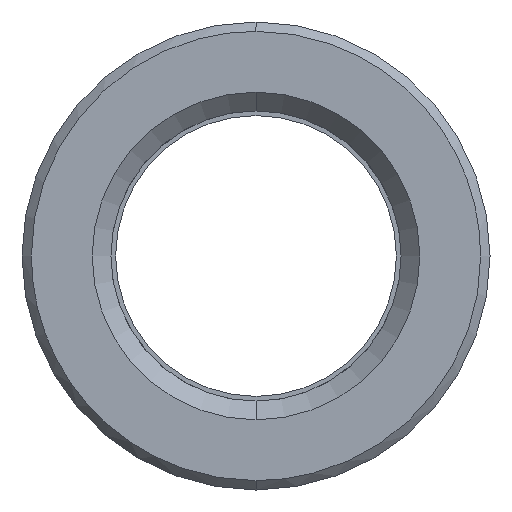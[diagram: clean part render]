
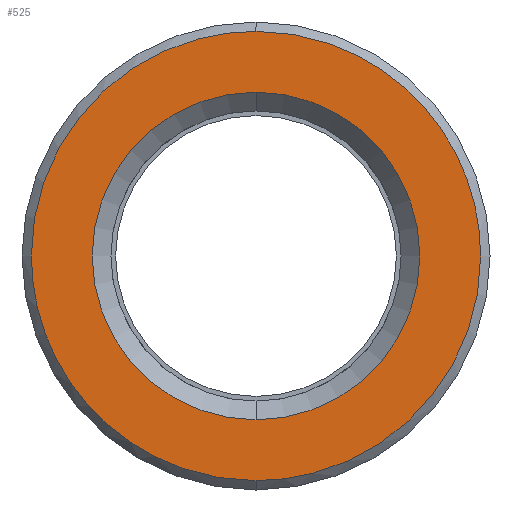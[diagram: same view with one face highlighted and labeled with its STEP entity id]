
A CAD part, left-side view. The second image highlights one B-rep face of the part: STEP entity #525.
In plain terms, the highlighted planar face has unit normal (-1, 0, 0).
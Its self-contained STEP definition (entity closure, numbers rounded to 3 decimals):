
#305=CARTESIAN_POINT('Axis2P3D Location',(0.,0.,0.)) ;
#309=CARTESIAN_POINT('Vertex',(0.,8.75,0.)) ;
#311=CARTESIAN_POINT('Vertex',(0.,0.,8.75)) ;
#314=CARTESIAN_POINT('Axis2P3D Location',(0.,0.,0.)) ;
#318=CARTESIAN_POINT('Vertex',(0.,0.,-8.75)) ;
#345=CARTESIAN_POINT('Axis2P3D Location',(0.,0.,0.)) ;
#349=CARTESIAN_POINT('Vertex',(0.,-8.75,0.)) ;
#352=CARTESIAN_POINT('Axis2P3D Location',(0.,0.,0.)) ;
#432=CARTESIAN_POINT('Axis2P3D Location',(0.,12.,0.)) ;
#438=CARTESIAN_POINT('Control Point',(0.,0.,-12.)) ;
#439=CARTESIAN_POINT('Control Point',(0.,0.982,-12.)) ;
#440=CARTESIAN_POINT('Control Point',(0.,1.964,-11.9)) ;
#441=CARTESIAN_POINT('Control Point',(0.,2.932,-11.699)) ;
#442=CARTESIAN_POINT('Control Point',(0.,5.011,-11.039)) ;
#443=CARTESIAN_POINT('Control Point',(0.,6.895,-9.93)) ;
#444=CARTESIAN_POINT('Control Point',(0.,7.845,-9.197)) ;
#445=CARTESIAN_POINT('Control Point',(0.,9.546,-7.512)) ;
#446=CARTESIAN_POINT('Control Point',(0.,10.784,-5.463)) ;
#447=CARTESIAN_POINT('Control Point',(0.,11.273,-4.367)) ;
#448=CARTESIAN_POINT('Control Point',(0.,11.741,-2.824)) ;
#449=CARTESIAN_POINT('Control Point',(0.,11.947,-1.236)) ;
#450=CARTESIAN_POINT('Control Point',(0.,11.982,-0.824)) ;
#451=CARTESIAN_POINT('Control Point',(0.,12.,-0.412)) ;
#452=CARTESIAN_POINT('Control Point',(0.,12.,0.)) ;
#453=CARTESIAN_POINT('Vertex',(0.,0.,-12.)) ;
#455=CARTESIAN_POINT('Vertex',(0.,12.,0.)) ;
#459=CARTESIAN_POINT('Control Point',(0.,-12.,0.)) ;
#460=CARTESIAN_POINT('Control Point',(0.,-12.,-1.188)) ;
#461=CARTESIAN_POINT('Control Point',(0.,-11.853,-2.376)) ;
#462=CARTESIAN_POINT('Control Point',(0.,-11.559,-3.54)) ;
#463=CARTESIAN_POINT('Control Point',(0.,-10.689,-5.77)) ;
#464=CARTESIAN_POINT('Control Point',(0.,-9.302,-7.721)) ;
#465=CARTESIAN_POINT('Control Point',(0.,-8.49,-8.605)) ;
#466=CARTESIAN_POINT('Control Point',(0.,-6.665,-10.155)) ;
#467=CARTESIAN_POINT('Control Point',(0.,-4.518,-11.213)) ;
#468=CARTESIAN_POINT('Control Point',(0.,-3.384,-11.606)) ;
#469=CARTESIAN_POINT('Control Point',(0.,-2.01,-11.897)) ;
#470=CARTESIAN_POINT('Control Point',(0.,-0.618,-11.987)) ;
#471=CARTESIAN_POINT('Control Point',(0.,-0.412,-11.996)) ;
#472=CARTESIAN_POINT('Control Point',(0.,-0.206,-12.)) ;
#473=CARTESIAN_POINT('Control Point',(0.,0.,-12.)) ;
#474=CARTESIAN_POINT('Vertex',(0.,-12.,0.)) ;
#478=CARTESIAN_POINT('Control Point',(0.,0.,12.)) ;
#479=CARTESIAN_POINT('Control Point',(0.,-0.982,12.)) ;
#480=CARTESIAN_POINT('Control Point',(0.,-1.964,11.9)) ;
#481=CARTESIAN_POINT('Control Point',(0.,-2.932,11.699)) ;
#482=CARTESIAN_POINT('Control Point',(0.,-5.011,11.039)) ;
#483=CARTESIAN_POINT('Control Point',(0.,-6.895,9.93)) ;
#484=CARTESIAN_POINT('Control Point',(0.,-7.845,9.197)) ;
#485=CARTESIAN_POINT('Control Point',(0.,-9.546,7.512)) ;
#486=CARTESIAN_POINT('Control Point',(0.,-10.784,5.463)) ;
#487=CARTESIAN_POINT('Control Point',(0.,-11.273,4.367)) ;
#488=CARTESIAN_POINT('Control Point',(0.,-11.741,2.824)) ;
#489=CARTESIAN_POINT('Control Point',(0.,-11.947,1.236)) ;
#490=CARTESIAN_POINT('Control Point',(0.,-11.982,0.824)) ;
#491=CARTESIAN_POINT('Control Point',(0.,-12.,0.412)) ;
#492=CARTESIAN_POINT('Control Point',(0.,-12.,0.)) ;
#493=CARTESIAN_POINT('Vertex',(0.,0.,12.)) ;
#497=CARTESIAN_POINT('Control Point',(0.,12.,0.)) ;
#498=CARTESIAN_POINT('Control Point',(0.,12.,1.188)) ;
#499=CARTESIAN_POINT('Control Point',(0.,11.853,2.376)) ;
#500=CARTESIAN_POINT('Control Point',(0.,11.559,3.54)) ;
#501=CARTESIAN_POINT('Control Point',(0.,10.689,5.77)) ;
#502=CARTESIAN_POINT('Control Point',(0.,9.302,7.721)) ;
#503=CARTESIAN_POINT('Control Point',(0.,8.49,8.605)) ;
#504=CARTESIAN_POINT('Control Point',(0.,6.665,10.155)) ;
#505=CARTESIAN_POINT('Control Point',(0.,4.518,11.213)) ;
#506=CARTESIAN_POINT('Control Point',(0.,3.384,11.606)) ;
#507=CARTESIAN_POINT('Control Point',(0.,2.01,11.897)) ;
#508=CARTESIAN_POINT('Control Point',(0.,0.618,11.987)) ;
#509=CARTESIAN_POINT('Control Point',(0.,0.412,11.996)) ;
#510=CARTESIAN_POINT('Control Point',(0.,0.206,12.)) ;
#511=CARTESIAN_POINT('Control Point',(0.,0.,12.)) ;
#306=DIRECTION('Axis2P3D Direction',(-1.,0.,0.)) ;
#315=DIRECTION('Axis2P3D Direction',(-1.,0.,0.)) ;
#346=DIRECTION('Axis2P3D Direction',(-1.,0.,0.)) ;
#353=DIRECTION('Axis2P3D Direction',(-1.,0.,0.)) ;
#433=DIRECTION('Axis2P3D Direction',(-1.,0.,0.)) ;
#434=DIRECTION('Axis2P3D XDirection',(0.,0.,1.)) ;
#307=AXIS2_PLACEMENT_3D('Circle Axis2P3D',#305,#306,$) ;
#316=AXIS2_PLACEMENT_3D('Circle Axis2P3D',#314,#315,$) ;
#347=AXIS2_PLACEMENT_3D('Circle Axis2P3D',#345,#346,$) ;
#354=AXIS2_PLACEMENT_3D('Circle Axis2P3D',#352,#353,$) ;
#435=AXIS2_PLACEMENT_3D('Plane Axis2P3D',#432,#433,#434) ;
#514=ORIENTED_EDGE('',*,*,#457,.F.) ;
#515=ORIENTED_EDGE('',*,*,#476,.F.) ;
#516=ORIENTED_EDGE('',*,*,#495,.F.) ;
#517=ORIENTED_EDGE('',*,*,#512,.F.) ;
#520=ORIENTED_EDGE('',*,*,#313,.T.) ;
#521=ORIENTED_EDGE('',*,*,#356,.T.) ;
#522=ORIENTED_EDGE('',*,*,#351,.T.) ;
#523=ORIENTED_EDGE('',*,*,#320,.T.) ;
#524=FACE_BOUND('',#519,.T.) ;
#525=ADVANCED_FACE('553-15X96',(#518,#524),#436,.T.) ;
#437=B_SPLINE_CURVE_WITH_KNOTS('',5,(#438,#439,#440,#441,#442,#443,#444,#445,#446,#447,#448,#449,#450,#451,#452),.UNSPECIFIED.,.F.,.U.,(6,3,3,3,6),(26.657,33.6,42.,50.399,53.312),.UNSPECIFIED.) ;
#458=B_SPLINE_CURVE_WITH_KNOTS('',5,(#459,#460,#461,#462,#463,#464,#465,#466,#467,#468,#469,#470,#471,#472,#473),.UNSPECIFIED.,.F.,.U.,(6,3,3,3,6),(0.,8.4,16.8,25.2,26.657),.UNSPECIFIED.) ;
#477=B_SPLINE_CURVE_WITH_KNOTS('',5,(#478,#479,#480,#481,#482,#483,#484,#485,#486,#487,#488,#489,#490,#491,#492),.UNSPECIFIED.,.F.,.U.,(6,3,3,3,6),(26.657,33.6,42.,50.399,53.312),.UNSPECIFIED.) ;
#496=B_SPLINE_CURVE_WITH_KNOTS('',5,(#497,#498,#499,#500,#501,#502,#503,#504,#505,#506,#507,#508,#509,#510,#511),.UNSPECIFIED.,.F.,.U.,(6,3,3,3,6),(0.,8.4,16.8,25.2,26.657),.UNSPECIFIED.) ;
#308=CIRCLE('generated circle',#307,8.75) ;
#317=CIRCLE('generated circle',#316,8.75) ;
#348=CIRCLE('generated circle',#347,8.75) ;
#355=CIRCLE('generated circle',#354,8.75) ;
#313=EDGE_CURVE('',#310,#312,#308,.F.) ;
#320=EDGE_CURVE('',#319,#310,#317,.F.) ;
#351=EDGE_CURVE('',#350,#319,#348,.F.) ;
#356=EDGE_CURVE('',#312,#350,#355,.F.) ;
#457=EDGE_CURVE('',#454,#456,#437,.T.) ;
#476=EDGE_CURVE('',#475,#454,#458,.T.) ;
#495=EDGE_CURVE('',#494,#475,#477,.T.) ;
#512=EDGE_CURVE('',#456,#494,#496,.T.) ;
#513=EDGE_LOOP('',(#514,#515,#516,#517)) ;
#519=EDGE_LOOP('',(#520,#521,#522,#523)) ;
#518=FACE_OUTER_BOUND('',#513,.T.) ;
#436=PLANE('Plane',#435) ;
#310=VERTEX_POINT('',#309) ;
#312=VERTEX_POINT('',#311) ;
#319=VERTEX_POINT('',#318) ;
#350=VERTEX_POINT('',#349) ;
#454=VERTEX_POINT('',#453) ;
#456=VERTEX_POINT('',#455) ;
#475=VERTEX_POINT('',#474) ;
#494=VERTEX_POINT('',#493) ;
